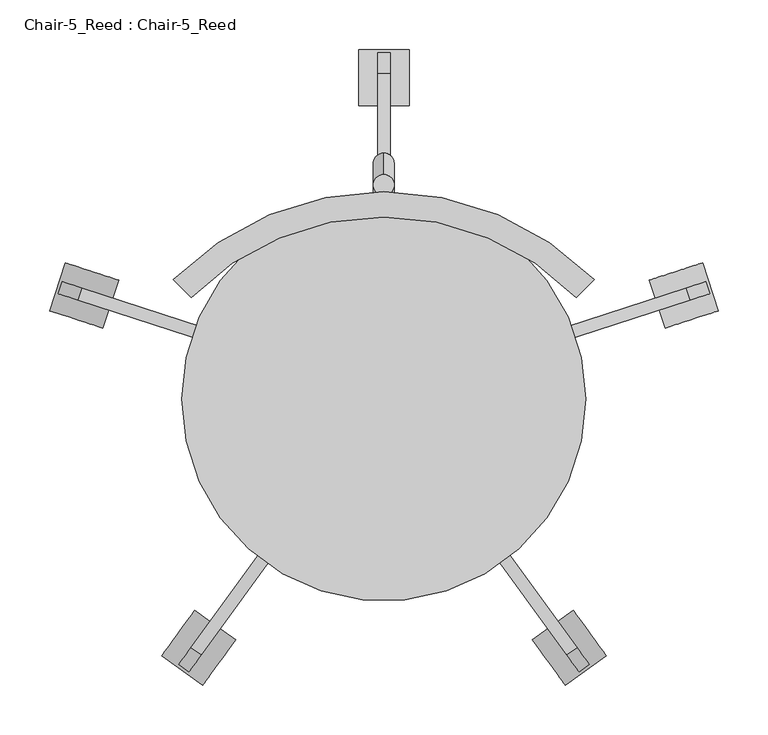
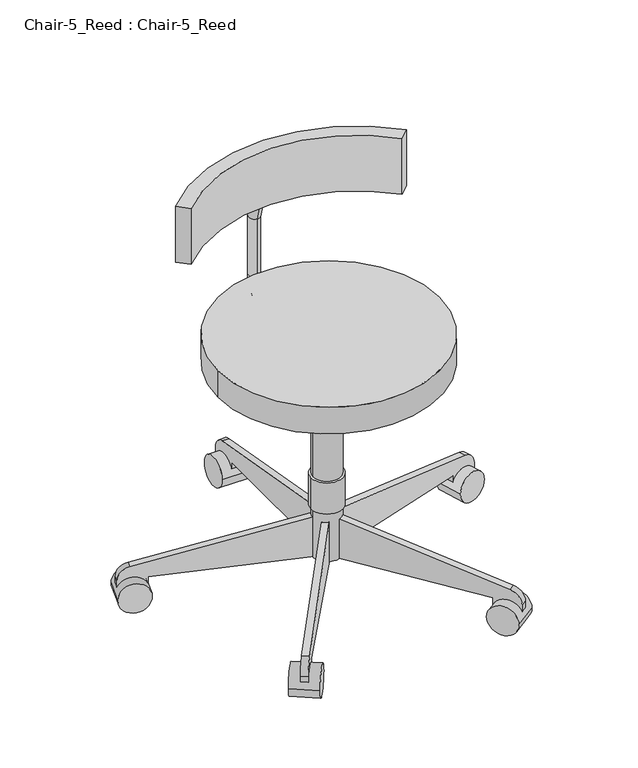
"""IFC4 building model written with IfcOpenShell, lengths in millimetres: furniture geometry, Chair-5_Reed : Chair-5_Reed."""

from ifc_helpers import new_model, si_unit, point, frame, frame_2d, origin, place, context, project, spatial, polyline, circle_curve, ellipse_curve, trimmed, segment, composite_curve, outline, extrude, source, transform, mapped, element, save
from ifc_brep_helpers import plane_surface, cylinder_surface, revolved_surface, advanced_brep


def chair_5_reed_chair_5_reed_12ea8904(model_context):
    return source(origin(), model_context, "Body", "SolidModel", [
        advanced_brep(
        [(560.992822, 280.8853985, 402.4306179), (560.992822, 280.8853985, 423.5715807), (560.992822, 376.1353985, 402.4306179), (560.992822, 376.1353985, 423.5715807), (560.992822, 410.0149171, 457.4510993), (560.992822, 431.1558799, 457.4510993), (560.992822, 431.1558799, 571.5552296), (560.992822, 410.0149171, 568.771969), (560.992822, 409.510363, 652.3373982), (560.992822, 388.3694003, 649.5541377), (560.992822, 409.510363, 705.9689213), (560.992822, 388.3694003, 705.9689213)],
        [
            (0, 1, circle_curve(frame((560.992822, 280.8853985, 413.0010993), z_axis=(0.0, -1.0, 0.0), x_axis=(0.0, 0.0, 1.0)), 10.5704814)),
            (1, 0, circle_curve(frame((560.992822, 280.8853985, 413.0010993), z_axis=(0.0, -1.0, 0.0), x_axis=(0.0, 0.0, 1.0)), 10.5704814)),
            (0, 2),
            (2, 3, circle_curve(frame((560.992822, 376.1353985, 413.0010993), z_axis=(0.0, -1.0, 0.0), x_axis=(0.0, 0.0, 1.0)), 10.5704814)),
            (3, 1),
            (3, 2, circle_curve(frame((560.992822, 376.1353985, 413.0010993), z_axis=(0.0, -1.0, 0.0), x_axis=(0.0, 0.0, 1.0)), 10.5704814)),
            (4, 3, circle_curve(frame((560.992822, 376.1353985, 457.4510993), z_axis=(-1.0, 0.0, 0.0), x_axis=(0.0, 0.0, -1.0)), 33.8795186)),
            (2, 5, circle_curve(frame((560.992822, 376.1353985, 457.4510993), z_axis=(1.0, 0.0, 0.0), x_axis=(0.0, 0.0, -1.0)), 55.0204814)),
            (5, 4, circle_curve(frame((560.992822, 420.5853985, 457.4510993), z_axis=(0.0, 0.0, -1.0), x_axis=(0.0, -1.0, 0.0)), 10.5704814)),
            (4, 5, circle_curve(frame((560.992822, 420.5853985, 457.4510993), z_axis=(0.0, 0.0, -1.0), x_axis=(0.0, -1.0, 0.0)), 10.5704814)),
            (5, 6),
            (6, 7, ellipse_curve(frame((560.992822, 420.5853985, 570.1635993), z_axis=(0.0, 0.13052619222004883, -0.9914448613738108), x_axis=(0.0, -0.9914448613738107, -0.13052619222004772)), 10.6616936, 10.5704814)),
            (7, 4),
            (7, 6, ellipse_curve(frame((560.992822, 420.5853985, 570.1635993), z_axis=(0.0, 0.13052619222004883, -0.9914448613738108), x_axis=(0.0, -0.9914448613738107, -0.13052619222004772)), 10.6616936, 10.5704814)),
            (6, 8),
            (8, 9, ellipse_curve(frame((560.992822, 398.9398817, 650.945768), z_axis=(0.0, 0.13052619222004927, -0.9914448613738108), x_axis=(0.0, 0.9914448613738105, 0.13052619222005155)), 10.6616936, 10.5704814)),
            (9, 7),
            (9, 8, ellipse_curve(frame((560.992822, 398.9398817, 650.945768), z_axis=(0.0, 0.13052619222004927, -0.9914448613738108), x_axis=(0.0, 0.9914448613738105, 0.13052619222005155)), 10.6616936, 10.5704814)),
            (10, 11, circle_curve(frame((560.992822, 398.9398817, 705.9689213), z_axis=(0.0, 0.0, 1.0), x_axis=(0.0, -1.0, 0.0)), 10.5704814)),
            (11, 10, circle_curve(frame((560.992822, 398.9398817, 705.9689213), z_axis=(0.0, 0.0, 1.0), x_axis=(0.0, -1.0, 0.0)), 10.5704814)),
            (8, 10),
            (11, 9),
        ],
        [
            plane_surface(frame((560.992822, 280.8853985, 413.0010993), z_axis=(0.0, -1.0, 0.0), x_axis=(1.0, 0.0, 0.0))),
            cylinder_surface(frame((560.992822, 280.8853985, 413.0010993), z_axis=(0.0, -1.0, 0.0), x_axis=(0.0, 0.0, 1.0)), 10.5704814),
            revolved_surface(trimmed(ellipse_curve(frame((560.992822, 376.1353985, 413.0010993), z_axis=(0.0, -1.0, 0.0), x_axis=(0.0, 0.0, 1.0)), 10.5704814, 10.5704814), [point((560.992822, 376.1353985, 402.4306179))], [point((560.992822, 376.1353985, 423.5715807))], True, "CARTESIAN"), (560.992822, 376.1353985, 457.4510993), (1.0, 0.0, 0.0)),
            revolved_surface(trimmed(ellipse_curve(frame((560.992822, 376.1353985, 413.0010993), z_axis=(0.0, -1.0, 0.0), x_axis=(0.0, 0.0, 1.0)), 10.5704814, 10.5704814), [point((560.992822, 376.1353985, 423.5715807))], [point((560.992822, 376.1353985, 402.4306179))], True, "CARTESIAN"), (560.992822, 376.1353985, 457.4510993), (1.0, 0.0, 0.0)),
            cylinder_surface(frame((560.992822, 420.5853985, 457.4510993), z_axis=(0.0, 0.0, -1.0), x_axis=(0.0, -1.0, 0.0)), 10.5704814),
            cylinder_surface(frame((560.992822, 420.5853985, 570.1635993), z_axis=(0.0, 0.25881904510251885, -0.9659258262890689), x_axis=(0.0, -0.9659258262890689, -0.25881904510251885)), 10.5704814),
            plane_surface(frame((560.992822, 398.9398817, 705.9689213), z_axis=(0.0, 0.0, 1.0), x_axis=(1.0, 0.0, 0.0))),
            cylinder_surface(frame((560.992822, 398.9398817, 650.945768), z_axis=(0.0, 0.0, -1.0), x_axis=(0.0, -1.0, 0.0)), 10.5704814),
        ],
        [
            (0, [[1, 2]]),
            (1, [[-1, 3, 4, 5]]),
            (1, [[-2, -5, 6, -3]]),
            (2, [[7, -4, 8, 9]]),
            (3, [[-8, -6, -7, 10]]),
            (4, [[-9, 11, 12, 13]]),
            (4, [[-10, -13, 14, -11]]),
            (5, [[-12, 15, 16, 17]]),
            (5, [[-14, -17, 18, -15]]),
            (6, [[19, 20]]),
            (7, [[-16, 21, -20, 22]]),
            (7, [[-18, -22, -19, -21]]),
        ],
    ),
        extrude(outline(composite_curve([segment(trimmed(circle_curve(frame_2d((560.992822, 94.156839)), 272.5509775), [point((754.8866785, 285.7011101))], [point((367.0989656, 285.7011101))], True, "CARTESIAN"), True, "CONTINUOUS"), segment(polyline([(367.0989656, 285.7011101), (349.0293039, 303.5518055)]), True, "CONTINUOUS"), segment(trimmed(circle_curve(frame_2d((560.992822, 94.156839)), 297.9509775), [point((349.0293039, 303.5518055))], [point((772.9563401, 303.5518055))], False, "CARTESIAN"), True, "CONTINUOUS"), segment(polyline([(772.9563401, 303.5518055), (754.8866785, 285.7011101)]), True, "CONTINUOUS")], self_intersect=False)), frame((0.0, 0.0, 624.3181959), z_axis=(0.0, 0.0, 1.0), x_axis=(1.0, 0.0, 0.0)), (0.0, 0.0, 1.0), 107.95),
        extrude(outline(composite_curve([segment(trimmed(circle_curve(frame_2d((561.2947944, 189.6219479)), 29.2804773), [point((532.0143171, 189.6219479))], [point((590.5752717, 189.6219479))], False, "CARTESIAN"), True, "CONTINUOUS"), segment(trimmed(circle_curve(frame_2d((561.2947944, 189.6219479)), 29.2804773), [point((590.5752717, 189.6219479))], [point((532.0143171, 189.6219479))], False, "CARTESIAN"), True, "CONTINUOUS")], self_intersect=False)), frame((0.0, 0.0, 150.5386388), z_axis=(0.0, 0.0, 1.0), x_axis=(1.0, 0.0, 0.0)), (0.0, 0.0, 1.0), 60.475529),
        extrude(outline(polyline([(53.0969479, 419.9762402), (53.0969479, 431.8), (304.3227946, 431.8), (287.0783582, 399.2788522), (165.3117213, 399.2788522), (135.7527877, 419.9762402), (53.0969479, 419.9762402)])), frame((472.092822, 0.0, 0.0), z_axis=(1.0, 0.0, 0.0), x_axis=(0.0, 1.0, 0.0)), (0.0, 0.0, 1.0), 177.8),
        extrude(outline(composite_curve([segment(trimmed(circle_curve(frame_2d((560.992822, 183.1576203)), 203.2), [point((357.792822, 183.1576203))], [point((764.192822, 183.1576203))], False, "CARTESIAN"), True, "CONTINUOUS"), segment(trimmed(circle_curve(frame_2d((560.992822, 183.1576203)), 203.2), [point((764.192822, 183.1576203))], [point((357.792822, 183.1576203))], False, "CARTESIAN"), True, "CONTINUOUS")], self_intersect=False)), frame((0.0, 0.0, 431.8), z_axis=(0.0, 0.0, 1.0), x_axis=(1.0, 0.0, 0.0)), (0.0, 0.0, 1.0), 51.6762402),
        extrude(outline(composite_curve([segment(trimmed(circle_curve(frame_2d((561.2947944, 189.6219479)), 25.4), [point((535.8947944, 189.6219479))], [point((586.6947944, 189.6219479))], False, "CARTESIAN"), True, "CONTINUOUS"), segment(trimmed(circle_curve(frame_2d((561.2947944, 189.6219479)), 25.4), [point((586.6947944, 189.6219479))], [point((535.8947944, 189.6219479))], False, "CARTESIAN"), True, "CONTINUOUS")], self_intersect=False)), frame((0.0, 0.0, 55.4806872), z_axis=(0.0, 0.0, 1.0), x_axis=(1.0, 0.0, 0.0)), (0.0, 0.0, 1.0), 348.2465114),
        extrude(outline(composite_curve([segment(trimmed(circle_curve(frame_2d((0.0, -28.2002727)), 28.2002727), [point((0.0, -56.4005455))], [point((0.0, 0.0))], False, "CARTESIAN"), True, "CONTINUOUS"), segment(trimmed(circle_curve(frame_2d((0.0, -28.2002727)), 28.2002727), [point((0.0, 0.0))], [point((0.0, -56.4005455))], False, "CARTESIAN"), True, "CONTINUOUS")], self_intersect=False)), frame((897.9243231, 272.2923716, 30.0806872), z_axis=(-0.3090169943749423, 0.9510565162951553, 0.0), x_axis=(0.0, 0.0, 1.0)), (0.0, 0.0, 1.0), 50.8),
        extrude(outline(composite_curve([segment(polyline([(-25.4, 0.0), (0.0, 0.0), (0.0, -50.8), (-24.303053, -50.8)]), True, "CONTINUOUS"), segment(trimmed(circle_curve(frame_2d((-24.303053, -25.4)), 25.4), [point((-24.303053, -50.8))], [point((-49.3171699, -29.8106637))], False, "CARTESIAN"), True, "CONTINUOUS"), segment(polyline([(-49.3171699, -29.8106637), (-101.6, 266.7), (-101.6, 292.1), (-25.4, 292.1), (-25.4, 0.0)]), True, "CONTINUOUS")], self_intersect=False)), frame((841.0606607, 273.8466031, 30.0806872), z_axis=(-0.3090169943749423, 0.9510565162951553, 0.0), x_axis=(0.0, 0.0, -1.0)), (0.0, 0.0, 1.0), 12.7),
        extrude(outline(composite_curve([segment(trimmed(circle_curve(frame_2d((0.0, -28.2002727)), 28.2002727), [point((0.0, -56.4005455))], [point((0.0, 0.0))], False, "CARTESIAN"), True, "CONTINUOUS"), segment(trimmed(circle_curve(frame_2d((0.0, -28.2002727)), 28.2002727), [point((0.0, 0.0))], [point((0.0, -56.4005455))], False, "CARTESIAN"), True, "CONTINUOUS")], self_intersect=False)), frame((743.9432847, -104.9851931, 30.0806872), z_axis=(0.8090169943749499, 0.5877852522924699, 0.0), x_axis=(0.0, 0.0, 1.0)), (0.0, 0.0, 1.0), 50.8),
        extrude(outline(composite_curve([segment(polyline([(-25.4, 0.0), (0.0, 0.0), (0.0, -50.8), (-24.303053, -50.8)]), True, "CONTINUOUS"), segment(trimmed(circle_curve(frame_2d((-24.303053, -25.3999999)), 25.4), [point((-24.303053, -50.8))], [point((-49.3171699, -29.8106636))], False, "CARTESIAN"), True, "CONTINUOUS"), segment(polyline([(-49.3171699, -29.8106636), (-101.6, 266.7), (-101.6, 292.1), (-25.4, 292.1), (-25.4, 0.0)]), True, "CONTINUOUS")], self_intersect=False)), frame((727.8496087, -50.4243525, 30.0806872), z_axis=(0.8090169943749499, 0.5877852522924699, 0.0), x_axis=(0.0, 0.0, -1.0)), (0.0, 0.0, 1.0), 12.7),
        extrude(outline(composite_curve([segment(trimmed(circle_curve(frame_2d((0.0, -28.2002727)), 28.2002727), [point((0.0, -56.4005455))], [point((0.0, 0.0))], False, "CARTESIAN"), True, "CONTINUOUS"), segment(trimmed(circle_curve(frame_2d((0.0, -28.2002727)), 28.2002727), [point((0.0, 0.0))], [point((0.0, -56.4005455))], False, "CARTESIAN"), True, "CONTINUOUS")], self_intersect=False)), frame((378.646304, -104.9851931, 30.0806872), z_axis=(-0.8090169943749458, 0.5877852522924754, 0.0), x_axis=(0.0, 0.0, -1.0)), (0.0, 0.0, 1.0), 50.8),
        extrude(outline(composite_curve([segment(polyline([(25.4, 0.0), (25.4, 292.1), (101.6, 292.1), (101.6, 266.7), (49.3171699, -29.8106637)]), True, "CONTINUOUS"), segment(trimmed(circle_curve(frame_2d((24.303053, -25.3999999)), 25.4), [point((49.3171699, -29.8106637))], [point((24.303053, -50.8))], False, "CARTESIAN"), True, "CONTINUOUS"), segment(polyline([(24.303053, -50.8), (0.0, -50.8), (0.0, 0.0), (25.4, 0.0)]), True, "CONTINUOUS")], self_intersect=False)), frame((394.7399801, -50.4243525, 30.0806872), z_axis=(-0.8090169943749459, 0.5877852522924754, 0.0), x_axis=(0.0, 0.0, 1.0)), (0.0, 0.0, 1.0), 12.7),
        extrude(outline(composite_curve([segment(trimmed(circle_curve(frame_2d((0.0, -28.2002727)), 28.2002727), [point((0.0, -56.4005454))], [point((0.0, 0.0))], False, "CARTESIAN"), True, "CONTINUOUS"), segment(trimmed(circle_curve(frame_2d((0.0, -28.2002727)), 28.2002727), [point((0.0, 0.0))], [point((0.0, -56.4005454))], False, "CARTESIAN"), True, "CONTINUOUS")], self_intersect=False)), frame((224.6652657, 272.2923716, 30.0806872), z_axis=(0.3090169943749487, 0.9510565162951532, 0.0), x_axis=(0.0, 0.0, -1.0)), (0.0, 0.0, 1.0), 50.8),
        extrude(outline(composite_curve([segment(polyline([(25.4, 0.0), (25.4, 292.1), (101.6, 292.1), (101.6, 266.6999999), (49.3171699, -29.8106637)]), True, "CONTINUOUS"), segment(trimmed(circle_curve(frame_2d((24.303053, -25.4000001)), 25.4), [point((49.3171699, -29.8106637))], [point((24.303053, -50.8000001))], False, "CARTESIAN"), True, "CONTINUOUS"), segment(polyline([(24.303053, -50.8000001), (0.0, -50.8000001), (0.0, 0.0), (25.4, 0.0)]), True, "CONTINUOUS")], self_intersect=False)), frame((281.5289281, 273.8466031, 30.0806872), z_axis=(0.3090169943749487, 0.9510565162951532, 0.0), x_axis=(0.0, 0.0, 1.0)), (0.0, 0.0, 1.0), 12.7),
        extrude(outline(composite_curve([segment(trimmed(circle_curve(frame_2d((507.1219479, 30.0806872)), 28.2002727), [point((478.9216752, 30.0806872))], [point((535.3222206, 30.0806872))], False, "CARTESIAN"), True, "CONTINUOUS"), segment(trimmed(circle_curve(frame_2d((507.1219479, 30.0806872)), 28.2002727), [point((535.3222206, 30.0806872))], [point((478.9216752, 30.0806872))], False, "CARTESIAN"), True, "CONTINUOUS")], self_intersect=False)), frame((535.8947944, 0.0, 0.0), z_axis=(1.0, 0.0, 0.0), x_axis=(0.0, 1.0, 0.0)), (0.0, 0.0, 1.0), 50.8),
        extrude(outline(composite_curve([segment(polyline([(481.7219479, 55.4806872), (189.6219479, 55.4806872), (189.6219479, 131.6806872), (215.0219479, 131.6806872), (511.5326116, 79.3978571)]), True, "CONTINUOUS"), segment(trimmed(circle_curve(frame_2d((507.1219479, 54.3837402)), 25.4), [point((511.5326116, 79.3978571))], [point((532.5219479, 54.3837402))], False, "CARTESIAN"), True, "CONTINUOUS"), segment(polyline([(532.5219479, 54.3837402), (532.5219479, 30.0806872), (481.7219479, 30.0806872), (481.7219479, 55.4806872)]), True, "CONTINUOUS")], self_intersect=False)), frame((554.9447944, 0.0, 0.0), z_axis=(1.0, 0.0, 0.0), x_axis=(0.0, 1.0, 0.0)), (0.0, 0.0, 1.0), 12.7),
    ])


if __name__ == "__main__":
    model = new_model("IFC4")
    model_context = context("Model", 3, world=origin())
    ifc_project = project(units=[si_unit("LENGTHUNIT", "METRE", prefix="MILLI")], contexts=[model_context])
    site = spatial("IfcSite", under=ifc_project)
    building = spatial("IfcBuilding", under=site)
    placement = place(None, origin())
    chair_5_reed_chair_5_reed_shape = chair_5_reed_chair_5_reed_12ea8904(model_context)
    element("IfcFurniture", 1, ObjectType="Chair-5_Reed : Chair-5_Reed", at=placement, inside=building, context=model_context, shape_type="MappedRepresentation", body=[
        mapped(chair_5_reed_chair_5_reed_shape, transform((0.0, 0.0, 0.0), x_axis=(1.0, 0.0, 0.0), y_axis=(0.0, 1.0, 0.0), z_axis=(0.0, 0.0, 1.0))),
    ])
    save(model, "model.ifc")
